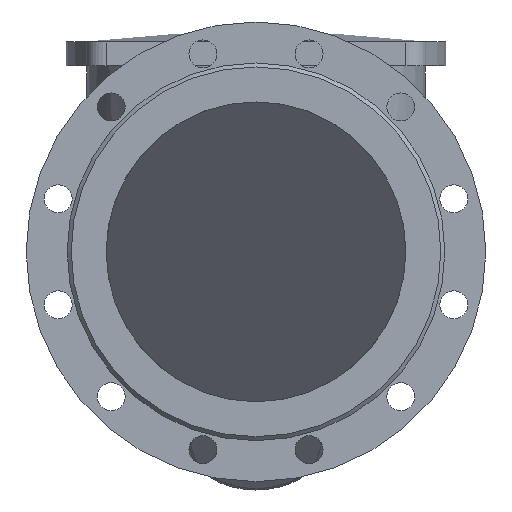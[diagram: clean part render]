
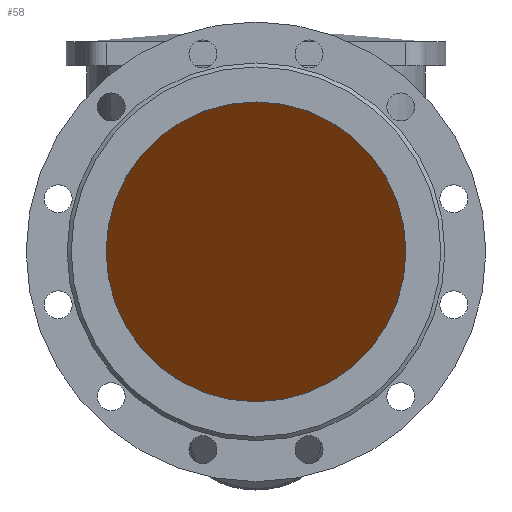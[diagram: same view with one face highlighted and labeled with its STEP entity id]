
A CAD part, front view. The second image highlights one B-rep face of the part: STEP entity #58.
In plain terms, the highlighted planar face has unit normal (0, -0.707, -0.707).
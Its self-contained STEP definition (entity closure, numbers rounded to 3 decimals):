
#58=ADVANCED_FACE('',(#734),#736,.T.);
#734=FACE_BOUND('',#735,.T.);
#735=EDGE_LOOP('',(#2681));
#736=PLANE('',#737);
#737=AXIS2_PLACEMENT_3D('',#738,#739,#740);
#738=CARTESIAN_POINT('',(-230.,-166.141,166.141));
#739=DIRECTION('',(0.,-0.707,-0.707));
#740=DIRECTION('',(0.,0.707,-0.707));
#2681=ORIENTED_EDGE('',*,*,#2982,.T.);
#2982=EDGE_CURVE('',#3129,#3129,#3130,.F.);
#3129=VERTEX_POINT('',#3388);
#3130=(BOUNDED_CURVE()B_SPLINE_CURVE(3,
(#3389,#3390,#3391,#3392,#3393,#3394,#3395),
.UNSPECIFIED.,.T.,.F.)B_SPLINE_CURVE_WITH_KNOTS((4,3,4),
(0.,0.5,1.),
.UNSPECIFIED.)CURVE()GEOMETRIC_REPRESENTATION_ITEM()RATIONAL_B_SPLINE_CURVE((1.,
0.333,0.333,1.,0.333,0.333,1.))
REPRESENTATION_ITEM(''));
#3388=CARTESIAN_POINT('',(0.,-150.,150.));
#3389=CARTESIAN_POINT('',(0.,-150.,150.));
#3390=CARTESIAN_POINT('',(300.,-150.,150.));
#3391=CARTESIAN_POINT('',(300.,150.,-150.));
#3392=CARTESIAN_POINT('',(0.,150.,-150.));
#3393=CARTESIAN_POINT('',(-300.,150.,-150.));
#3394=CARTESIAN_POINT('',(-300.,-150.,150.));
#3395=CARTESIAN_POINT('',(0.,-150.,150.));
